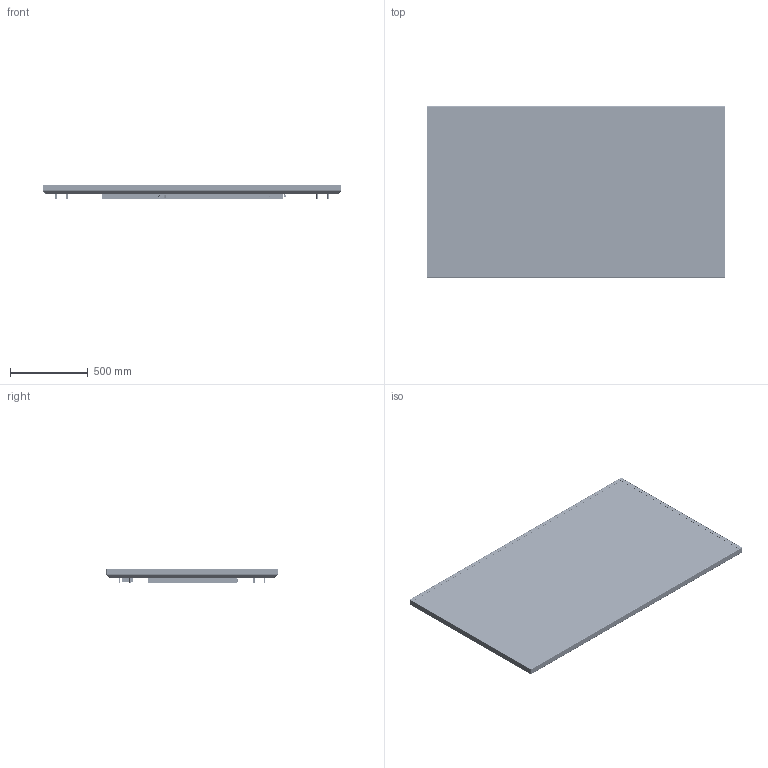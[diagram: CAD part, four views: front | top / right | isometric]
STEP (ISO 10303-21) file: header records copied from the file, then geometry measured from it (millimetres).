
FILE_DESCRIPTION (( 'STEP AP203' ), '1' );
FILE_NAME ('Hayden URX85 Standard Panel 3D.STEP', '2021-01-18T19:24:01', ( '' ), ( '' ), 'SwSTEP 2.0', 'SolidWorks 2019', '' );
FILE_SCHEMA (( 'CONFIG_CONTROL_DESIGN' ));
Length unit declared in the file: millimetre
Products named in the file (70): 572-5345; 572-5399; 526-0567; B18.6.7M - M3 x 0.5 x 6 Type I Cross Recessed FHMS --6N BLK_PreviewCfg; 572-5378; 572-4464; PEM S-M3-0 ZI--N_PEM S-M3-0 ZI--N; 572-5304_Masked; PEM FH-M6-15 ZI--N_PEM FH-M6-15 ZI--N; 572-5387; 572-5304; 82-35-302-15 base; 105-0020-00; assy_module_p850qvn02v1_v3_190621_Glass_Only; B18.6.7M - M4 x 0.7 x 6 Type I Cross Recessed PHMS --6N BLK_B18.6.7M - M4 x 0.7 x 6 Type I Cross Recessed PHMS BLK --6N; 572-5398; PLP2-125 (Lens); 540-0192; PEM S-M4-1 ZI--N; 10SS6-B2AHR-QPB; B18.6.7M - M3 x 0.5 x 6 Type I Cross Recessed PHMS --6N BLK_B18.6.7M - M3 x 0.5 x 6 Type I Cross Recessed PHMS --6N; SPACER, 0.5in OD x 0.25in ID x 1.1875in LG_92414A437; PEM TPS-4mm-8_PreviewCfg; B18.6.7M - M3 x 0.5 x 6 Type I Cross Recessed FHMS --6N_B18.6.7M - M3 x 0.5 x 6 Type I Cross Recessed FHMS --6N; 572-5397_Masked; 437-2443; 572-5346; Shell Version of 944-2980; PEM BSO-3.5M3-10 ZI--N_PEM BSO-3.5M3-10 ZI--N; 572-5386; B18.3.5M - 6 x 1.0 x 40 Socket FCHS  -- 40N_B18.3.5M - 6 x 1.0 x 40 Socket FCHS  -- 40N; PEM BSO-3.5M3-14 ZI--N_PEM BSO-3.5M3-14 ZI--N; PEM S-M3-1 ZI--N_PEM S-M3-1 ZI--N; 572-5339_Masked; RIVET - 125 BUTTON HEAD; Hayden URX85 Standard Panel 3D; 572-5385; PEM SO-3.5M3-8 ZI--N_PEM SO-3.5M3-8 ZI--N; RIVET - 093 C''SINK; 572-5396_Masked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
Assembly tree (261 placements, depth 6):
  Hayden URX85 Standard Panel 3D
    assy_module_p850qvn02v1_v3_190621_Glass_Only
    Hayden common tray_Hayden 85
      437-2443
        572-5304
          572-5304_Masked
          PEM BSO-3.5M3-14 ZI--N_PEM BSO-3.5M3-14 ZI--N  x12
          PEM SO-3.5M3-8 ZI--N_PEM SO-3.5M3-8 ZI--N  x9
          PEM BSO-3.5M3-10 ZI--N_PEM BSO-3.5M3-10 ZI--N  x6
          PEM PF11-M4-1-ZI--N  x4
          105-0018-50
            82-35-302-15 spring
            82-35-302-15 base
          RIVET - 093 C''SINK  x2
          PEM FH-M6-15 ZI--N_PEM FH-M6-15 ZI--N
          PEM S-M4-1 ZI--N  x2
          PEM S-M3-1 ZI--N_PEM S-M3-1 ZI--N  x2
          PEM TPS-4mm-16  x2
        572-5339_Masked
        B18.6.7M - M4 x 0.7 x 6 Type I Cross Recessed PHMS --6N BLK_B18.6.7M - M4 x 0.7 x 6 Type I Cross Recessed PHMS BLK --6N  x2
        572-5345
          572-5345
          PEM SO-M3-3 ZI--N_PEM SO-M3-3 ZI--N  x2
        572-5345
          572-5345
          PEM SO-M3-3 ZI--N_PEM SO-M3-3 ZI--N  x2
        572-5345
          572-5345
          PEM SO-M3-3 ZI--N_PEM SO-M3-3 ZI--N  x2
        572-5345
          572-5345
          PEM SO-M3-3 ZI--N_PEM SO-M3-3 ZI--N  x2
        572-5345
          572-5345
          PEM SO-M3-3 ZI--N_PEM SO-M3-3 ZI--N  x2
        572-5345
          572-5345
          PEM SO-M3-3 ZI--N_PEM SO-M3-3 ZI--N  x2
        RIVET - 125 BUTTON HEAD  x12
      10SS6-B2AHR-QPB
      572-5387
        572-5387
        PF11MF-M4-1  x2
        PEM SO-3.5M3-4 ZI--N_PEM SO-3.5M3-4 ZI--N  x8
        PEM TPS-4mm-8_PreviewCfg  x2
        105-0020-00
        105-0022-00
        82-19-180-16
        B18.6.7M - M3 x 0.5 x 6 Type I Cross Recessed FHMS --6N_B18.6.7M - M3 x 0.5 x 6 Type I Cross Recessed FHMS --6N  x8
        B18.22M - Plain washer, 3 mm, wide_B18.22M - Plain washer, 3 mm, wide  x8
    572-5385  x2
    572-5386  x2
    B18.6.7M - M4 x 0.7 x 6 Type I Cross Recessed FHMS --6N BLK_B18.6.7M - M4 x 0.7 x 6 Type I Cross Recessed FHMS --6N  x40
    526-0564_Molded  x4
    572-5378
      572-5378
      SPACER, 0.5in OD x 0.25in ID x 1.1875in LG_92414A437  x4
    572-5378
      572-5378
      SPACER, 0.5in OD x 0.25in ID x 1.1875in LG_92414A437  x4
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Bounding box: 1919.08 x 1100.08 x 94.33 mm (x, y, z)
Volume: 5369730.3 mm3; surface area: 10923285.2 mm2
Topology: 240 solids, 365 shells, 12986 faces, 36377 edges, 24258 vertices
Faces by surface type: plane 7094, cylinder 3694, bspline 1061, cone 815, torus 206, sphere 116
Entity records: 303753 total; most frequent: CARTESIAN_POINT 90217, ORIENTED_EDGE 41393, DIRECTION 38405, EDGE_CURVE 23086, VERTEX_POINT 16160, VECTOR 15283, LINE 15283, AXIS2_PLACEMENT_3D 11561
